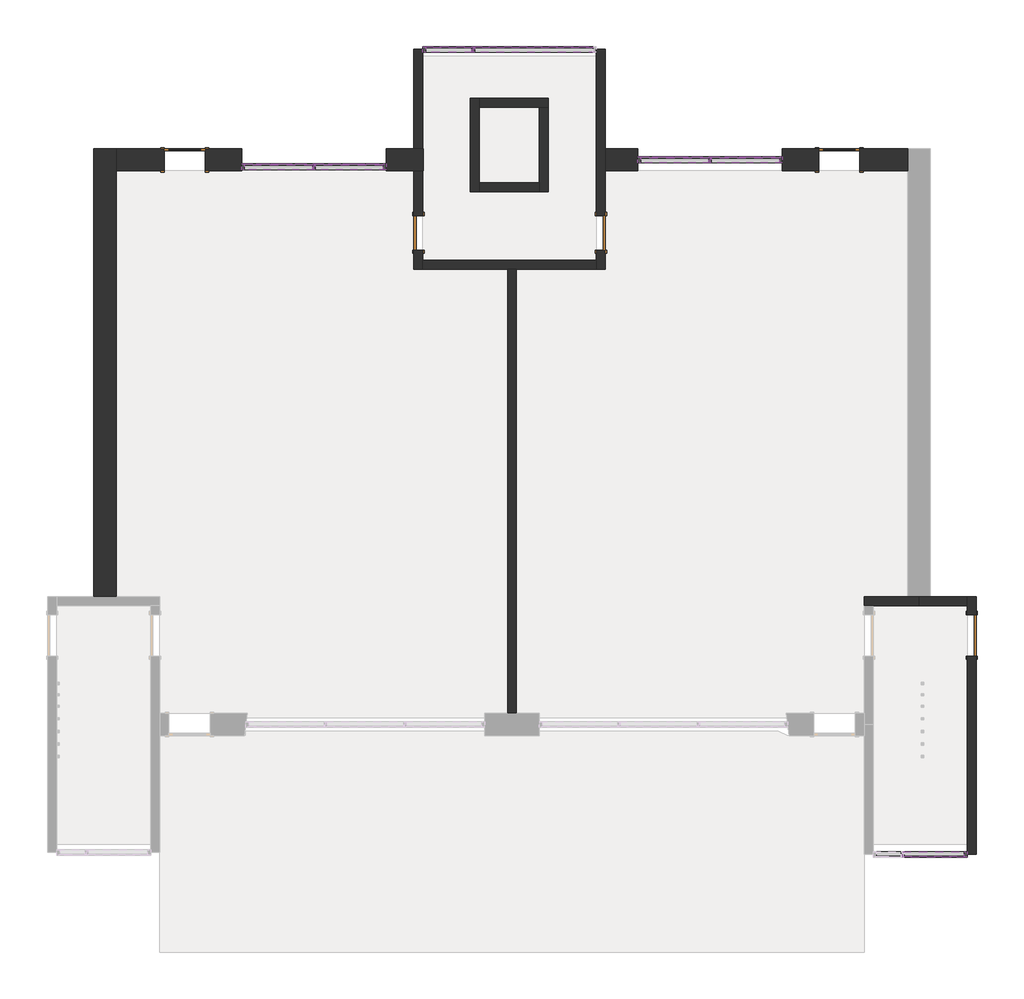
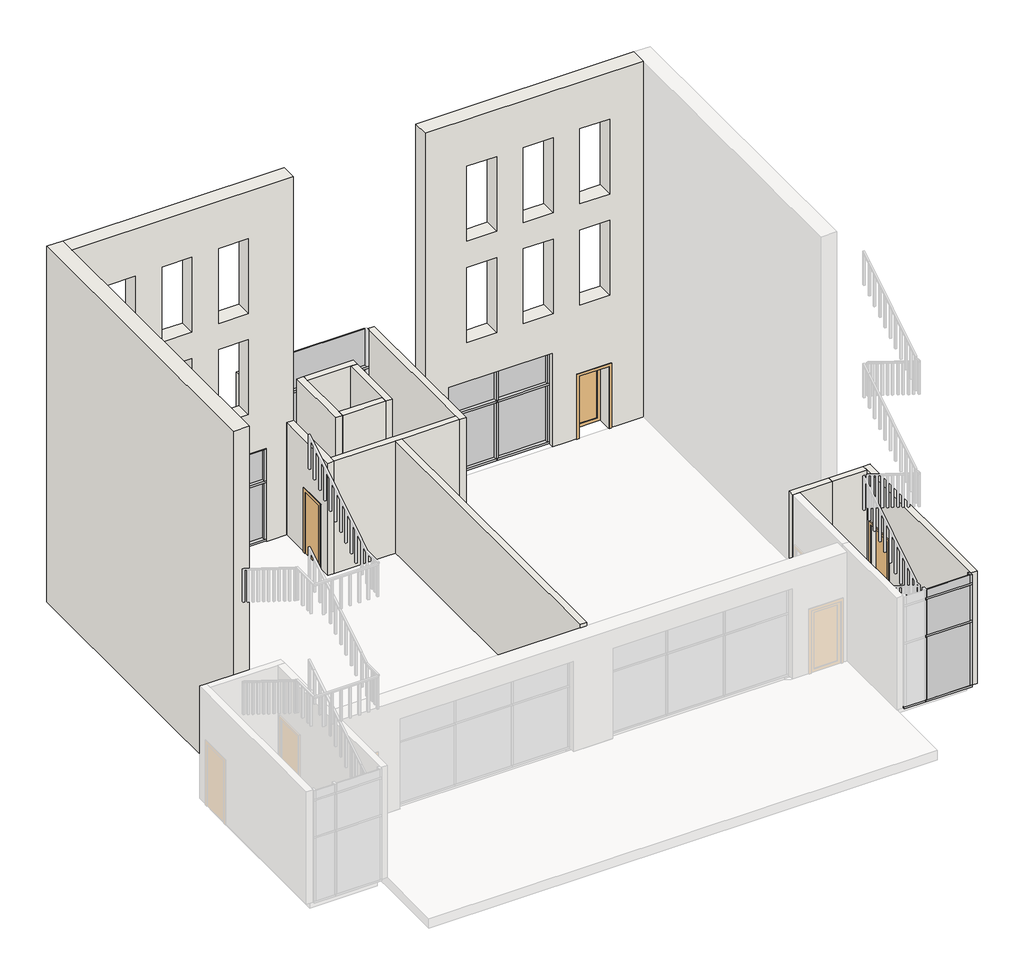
# One storey, part 2 of 4: 39 members, 16 walls, 15 plates, 5 doors.
"""IFC4 building model written with IfcOpenShell, lengths in millimetres."""

from ifc_helpers import new_model, si_unit, frame, origin, origin_with_axes, place, context, project, spatial, polyline, outline, extrude, faceted_brep, transform, mapped, element, save
from components import door_fadea3f2, door_53b1b562, door_09f6fe45, door_78e9ea75, door_dbfeadd9, glazed_panel_glazed_panel_8712f61d, glazed_panel_glazed_panel_3049fc2b, glazed_panel_glazed_panel_ed21d652, glazed_panel_glazed_panel_74581ffd, glazed_panel_glazed_panel_ad4a4512, glazed_panel_glazed_panel_af7c71ff, glazed_panel_glazed_panel_dfa14ea5, glazed_panel_glazed_panel_a164e39c, glazed_panel_glazed_panel_a7529006

model = new_model("IFC4")

# Units and contexts
model_context = context("Model", 3, world=origin())
ifc_project = project(units=[si_unit("LENGTHUNIT", "METRE", prefix="MILLI")], contexts=[model_context])

# Site, building, storey
site = spatial("IfcSite", under=ifc_project)
building = spatial("IfcBuilding", under=site)
storey = spatial("IfcBuildingStorey", under=building, Name="1st Flr. Cnst.", Elevation=0.0)

# Doors
placement = place(None, origin())
door_shape = door_fadea3f2(model_context)
element("IfcDoor", 1, ObjectType="Sgl Flush : 30\" x 80\"", at=placement, inside=storey, context=model_context, shape_type="MappedRepresentation", body=[
    mapped(door_shape, transform((9720.2821195, 8011.9797656, 0.0), x_axis=(0.0, -1.0, 0.0), y_axis=(1.0, 0.0, 0.0), z_axis=(0.0, 0.0, 1.0))),
])
door_2_shape = door_53b1b562(model_context)
element("IfcDoor", 2, ObjectType="Sgl Flush : 30\" x 80\"", at=placement, inside=storey, context=model_context, shape_type="MappedRepresentation", body=[
    mapped(door_2_shape, transform((5666.259118, 8011.9797656, 0.0), x_axis=(0.0, -1.0, 0.0), y_axis=(1.0, 0.0, 0.0), z_axis=(0.0, 0.0, 1.0))),
])
door_3_shape = door_09f6fe45(model_context)
element("IfcDoor", 3, ObjectType="Sgl Flush : 36\" x 80\"", at=placement, inside=storey, context=model_context, shape_type="MappedRepresentation", body=[
    mapped(door_3_shape, transform((17956.684118, -928.8202344, 0.0), x_axis=(0.0, 1.0, 0.0), y_axis=(-1.0, 0.0, 0.0), z_axis=(0.0, 0.0, 1.0))),
])
door_4_shape = door_78e9ea75(model_context)
element("IfcDoor", 4, ObjectType="Sgl-Glass 1 : 36\" x 80\"", at=placement, inside=storey, context=model_context, shape_type="MappedRepresentation", body=[
    mapped(door_4_shape, transform((15016.5322262, 9634.6494946, 0.0), x_axis=(0.999999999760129, 2.1903008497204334e-05, 0.0), y_axis=(-2.1903008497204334e-05, 0.999999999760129, 0.0), z_axis=(0.0, 0.0, 1.0))),
])
door_5_shape = door_dbfeadd9(model_context)
element("IfcDoor", 5, ObjectType="Sgl-Glass 1 : 36\" x 80\"", at=placement, inside=storey, context=model_context, shape_type="MappedRepresentation", body=[
    mapped(door_5_shape, transform((475.2360099, 9634.6494946, 0.0), x_axis=(-0.9999999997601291, 2.1903008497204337e-05, 0.0), y_axis=(-2.1903008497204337e-05, -0.9999999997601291, 0.0), z_axis=(0.0, 0.0, 1.0))),
])

# Members
element("IfcMember", 6, ObjectType="Rectangular Mullion : 2.5\" x 5\" rectangular", at=placement, inside=storey, context=model_context, shape_type="SweptSolid", body=[
    extrude(outline(polyline([(17855.084118, -5729.4662808), (17855.084118, -5856.4662808), (16427.921618, -5856.4662808), (16427.921618, -5729.4662808), (17855.084118, -5729.4662808)])), origin_with_axes(), (0.0, 0.0, 1.0), 63.5),
])
element("IfcMember", 7, ObjectType="Rectangular Mullion : 2.5\" x 5\" rectangular", at=placement, inside=storey, context=model_context, shape_type="SweptSolid", body=[
    extrude(outline(polyline([(17855.084118, -5729.4662808), (17855.084118, -5856.4662808), (17791.584118, -5856.4662808), (17791.584118, -5729.4662808), (17855.084118, -5729.4662808)])), frame((0.0, 0.0, 3384.55), z_axis=(0.0, 0.0, 1.0), x_axis=(1.0, 0.0, 0.0)), (0.0, 0.0, 1.0), 273.05),
])
element("IfcMember", 8, ObjectType="Rectangular Mullion : 2.5\" x 5\" rectangular", at=placement, inside=storey, context=model_context, shape_type="SweptSolid", body=[
    extrude(outline(polyline([(16427.921618, -5856.4662808), (16427.921618, -5729.4662808), (17855.084118, -5729.4662808), (17855.084118, -5856.4662808), (16427.921618, -5856.4662808)])), frame((0.0, 0.0, 3321.05), z_axis=(0.0, 0.0, 1.0), x_axis=(1.0, 0.0, 0.0)), (0.0, 0.0, 1.0), 63.5),
])
element("IfcMember", 9, ObjectType="Rectangular Mullion : 2.5\" x 5\" rectangular", at=placement, inside=storey, context=model_context, shape_type="SweptSolid", body=[
    extrude(outline(polyline([(16427.921618, -5856.4662808), (16427.921618, -5729.4662808), (17855.084118, -5729.4662808), (17855.084118, -5856.4662808), (16427.921618, -5856.4662808)])), frame((0.0, 0.0, 2101.85), z_axis=(0.0, 0.0, 1.0), x_axis=(1.0, 0.0, 0.0)), (0.0, 0.0, 1.0), 63.5),
])
element("IfcMember", 10, ObjectType="Rectangular Mullion : 2.5\" x 5\" rectangular", at=placement, inside=storey, context=model_context, shape_type="SweptSolid", body=[
    extrude(outline(polyline([(16427.921618, -5729.4662808), (16427.921618, -5856.4662808), (15772.284118, -5856.4662808), (15772.284118, -5729.4662808), (16427.921618, -5729.4662808)])), origin_with_axes(), (0.0, 0.0, 1.0), 63.5),
])
element("IfcMember", 11, ObjectType="Rectangular Mullion : 2.5\" x 5\" rectangular", at=placement, inside=storey, context=model_context, shape_type="SweptSolid", body=[
    extrude(outline(polyline([(17855.084118, -5729.4662808), (17855.084118, -5856.4662808), (17791.584118, -5856.4662808), (17791.584118, -5729.4662808), (17855.084118, -5729.4662808)])), frame((0.0, 0.0, 2165.35), z_axis=(0.0, 0.0, 1.0), x_axis=(1.0, 0.0, 0.0)), (0.0, 0.0, 1.0), 1155.7),
])
element("IfcMember", 12, ObjectType="Rectangular Mullion : 2.5\" x 5\" rectangular", at=placement, inside=storey, context=model_context, shape_type="SweptSolid", body=[
    extrude(outline(polyline([(17855.084118, -5729.4662808), (17855.084118, -5856.4662808), (17791.584118, -5856.4662808), (17791.584118, -5729.4662808), (17855.084118, -5729.4662808)])), frame((0.0, 0.0, 63.5), z_axis=(0.0, 0.0, 1.0), x_axis=(1.0, 0.0, 0.0)), (0.0, 0.0, 1.0), 2038.35),
])
element("IfcMember", 13, ObjectType="Rectangular Mullion : 2.5\" x 5\" rectangular", at=placement, inside=storey, context=model_context, shape_type="SweptSolid", body=[
    extrude(outline(polyline([(5767.859118, 12022.7617365), (5767.859118, 12149.7617365), (6885.459118, 12149.7617365), (6885.459118, 12022.7617365), (5767.859118, 12022.7617365)])), origin_with_axes(), (0.0, 0.0, 1.0), 63.5),
])
element("IfcMember", 14, ObjectType="Rectangular Mullion : 2.5\" x 5\" rectangular", at=placement, inside=storey, context=model_context, shape_type="SweptSolid", body=[
    extrude(outline(polyline([(6885.459118, 12022.7617365), (6885.459118, 12149.7617365), (9618.6821195, 12149.7617365), (9618.6821195, 12022.7617365), (6885.459118, 12022.7617365)])), origin_with_axes(), (0.0, 0.0, 1.0), 63.5),
])
element("IfcMember", 15, ObjectType="Rectangular Mullion : 2.5\" x 5\" rectangular", at=placement, inside=storey, context=model_context, shape_type="SweptSolid", body=[
    extrude(outline(polyline([(5767.859118, 12022.7617365), (5767.859118, 12149.7617365), (5831.359118, 12149.7617365), (5831.359118, 12022.7617365), (5767.859118, 12022.7617365)])), frame((0.0, 0.0, 2470.15), z_axis=(0.0, 0.0, 1.0), x_axis=(1.0, 0.0, 0.0)), (0.0, 0.0, 1.0), 1187.45),
])
element("IfcMember", 16, ObjectType="Rectangular Mullion : 2.5\" x 5\" rectangular", at=placement, inside=storey, context=model_context, shape_type="SweptSolid", body=[
    extrude(outline(polyline([(5767.859118, 12022.7617365), (5767.859118, 12149.7617365), (5831.359118, 12149.7617365), (5831.359118, 12022.7617365), (5767.859118, 12022.7617365)])), frame((0.0, 0.0, 63.5), z_axis=(0.0, 0.0, 1.0), x_axis=(1.0, 0.0, 0.0)), (0.0, 0.0, 1.0), 2343.15),
])
element("IfcMember", 17, ObjectType="Rectangular Mullion : 2.5\" x 5\" rectangular", at=placement, inside=storey, context=model_context, shape_type="SweptSolid", body=[
    extrude(outline(polyline([(6917.209118, 12022.7617365), (6853.709118, 12022.7617365), (6853.709118, 12149.7617365), (6917.209118, 12149.7617365), (6917.209118, 12022.7617365)])), frame((0.0, 0.0, 63.5), z_axis=(0.0, 0.0, 1.0), x_axis=(1.0, 0.0, 0.0)), (0.0, 0.0, 1.0), 2343.15),
])
element("IfcMember", 18, ObjectType="Rectangular Mullion : 2.5\" x 5\" rectangular", at=placement, inside=storey, context=model_context, shape_type="SweptSolid", body=[
    extrude(outline(polyline([(6885.459118, 12149.7617365), (6885.459118, 12022.7617365), (5767.859118, 12022.7617365), (5767.859118, 12149.7617365), (6885.459118, 12149.7617365)])), frame((0.0, 0.0, 2406.65), z_axis=(0.0, 0.0, 1.0), x_axis=(1.0, 0.0, 0.0)), (0.0, 0.0, 1.0), 63.5),
])
element("IfcMember", 19, ObjectType="Rectangular Mullion : 2.5\" x 5\" rectangular", at=placement, inside=storey, context=model_context, shape_type="SweptSolid", body=[
    extrude(outline(polyline([(9618.6821195, 12149.7617365), (9618.6821195, 12022.7617365), (6885.459118, 12022.7617365), (6885.459118, 12149.7617365), (9618.6821195, 12149.7617365)])), frame((0.0, 0.0, 2406.65), z_axis=(0.0, 0.0, 1.0), x_axis=(1.0, 0.0, 0.0)), (0.0, 0.0, 1.0), 63.5),
])
element("IfcMember", 20, ObjectType="Rectangular Mullion : 2.5\" x 5\" rectangular", at=placement, inside=storey, context=model_context, shape_type="SweptSolid", body=[
    extrude(outline(polyline([(6917.209118, 12022.7617365), (6853.709118, 12022.7617365), (6853.709118, 12149.7617365), (6917.209118, 12149.7617365), (6917.209118, 12022.7617365)])), frame((0.0, 0.0, 2470.15), z_axis=(0.0, 0.0, 1.0), x_axis=(1.0, 0.0, 0.0)), (0.0, 0.0, 1.0), 1187.45),
])
element("IfcMember", 21, ObjectType="Rectangular Mullion : 2.5\" x 5\" rectangular", at=placement, inside=storey, context=model_context, shape_type="SweptSolid", body=[
    extrude(outline(polyline([(13752.457464, 9698.0334908), (13752.457464, 9571.0334908), (12144.583291, 9571.0334908), (12144.583291, 9698.0334908), (13752.457464, 9698.0334908)])), origin_with_axes(), (0.0, 0.0, 1.0), 63.5),
])
element("IfcMember", 22, ObjectType="Rectangular Mullion : 2.5\" x 5\" rectangular", at=placement, inside=storey, context=model_context, shape_type="SweptSolid", body=[
    extrude(outline(polyline([(10536.709118, 9698.0334908), (10600.209118, 9698.0334908), (10600.209118, 9571.0334908), (10536.709118, 9571.0334908), (10536.709118, 9698.0334908)])), frame((0.0, 0.0, 63.5), z_axis=(0.0, 0.0, 1.0), x_axis=(1.0, 0.0, 0.0)), (0.0, 0.0, 1.0), 1835.15),
])
element("IfcMember", 23, ObjectType="Rectangular Mullion : 2.5\" x 5\" rectangular", at=placement, inside=storey, context=model_context, shape_type="SweptSolid", body=[
    extrude(outline(polyline([(10536.709118, 9571.0334908), (10536.709118, 9698.0334908), (12144.583291, 9698.0334908), (12144.583291, 9571.0334908), (10536.709118, 9571.0334908)])), frame((0.0, 0.0, 2984.5), z_axis=(0.0, 0.0, 1.0), x_axis=(1.0, 0.0, 0.0)), (0.0, 0.0, 1.0), 63.5),
])
element("IfcMember", 24, ObjectType="Rectangular Mullion : 2.5\" x 5\" rectangular", at=placement, inside=storey, context=model_context, shape_type="SweptSolid", body=[
    extrude(outline(polyline([(13752.457464, 9698.0334908), (13752.457464, 9571.0334908), (13688.957464, 9571.0334908), (13688.957464, 9698.0334908), (13752.457464, 9698.0334908)])), frame((0.0, 0.0, 1962.15), z_axis=(0.0, 0.0, 1.0), x_axis=(1.0, 0.0, 0.0)), (0.0, 0.0, 1.0), 1022.35),
])
element("IfcMember", 25, ObjectType="Rectangular Mullion : 2.5\" x 5\" rectangular", at=placement, inside=storey, context=model_context, shape_type="SweptSolid", body=[
    extrude(outline(polyline([(12144.583291, 9571.0334908), (12144.583291, 9698.0334908), (13752.457464, 9698.0334908), (13752.457464, 9571.0334908), (12144.583291, 9571.0334908)])), frame((0.0, 0.0, 1898.65), z_axis=(0.0, 0.0, 1.0), x_axis=(1.0, 0.0, 0.0)), (0.0, 0.0, 1.0), 63.5),
])
element("IfcMember", 26, ObjectType="Rectangular Mullion : 2.5\" x 5\" rectangular", at=placement, inside=storey, context=model_context, shape_type="SweptSolid", body=[
    extrude(outline(polyline([(10536.709118, 9571.0334908), (10536.709118, 9698.0334908), (12144.583291, 9698.0334908), (12144.583291, 9571.0334908), (10536.709118, 9571.0334908)])), frame((0.0, 0.0, 1898.65), z_axis=(0.0, 0.0, 1.0), x_axis=(1.0, 0.0, 0.0)), (0.0, 0.0, 1.0), 63.5),
])
element("IfcMember", 27, ObjectType="Rectangular Mullion : 2.5\" x 5\" rectangular", at=placement, inside=storey, context=model_context, shape_type="SweptSolid", body=[
    extrude(outline(polyline([(12112.833291, 9698.0334908), (12176.333291, 9698.0334908), (12176.333291, 9571.0334908), (12112.833291, 9571.0334908), (12112.833291, 9698.0334908)])), frame((0.0, 0.0, 63.5), z_axis=(0.0, 0.0, 1.0), x_axis=(1.0, 0.0, 0.0)), (0.0, 0.0, 1.0), 1835.15),
])
element("IfcMember", 28, ObjectType="Rectangular Mullion : 2.5\" x 5\" rectangular", at=placement, inside=storey, context=model_context, shape_type="SweptSolid", body=[
    extrude(outline(polyline([(12144.583291, 9698.0334908), (12144.583291, 9571.0334908), (10536.709118, 9571.0334908), (10536.709118, 9698.0334908), (12144.583291, 9698.0334908)])), origin_with_axes(), (0.0, 0.0, 1.0), 63.5),
])
element("IfcMember", 29, ObjectType="Rectangular Mullion : 2.5\" x 5\" rectangular", at=placement, inside=storey, context=model_context, shape_type="SweptSolid", body=[
    extrude(outline(polyline([(10536.709118, 9698.0334908), (10600.209118, 9698.0334908), (10600.209118, 9571.0334908), (10536.709118, 9571.0334908), (10536.709118, 9698.0334908)])), frame((0.0, 0.0, 1962.15), z_axis=(0.0, 0.0, 1.0), x_axis=(1.0, 0.0, 0.0)), (0.0, 0.0, 1.0), 1022.35),
])
element("IfcMember", 30, ObjectType="Rectangular Mullion : 2.5\" x 5\" rectangular", at=placement, inside=storey, context=model_context, shape_type="SweptSolid", body=[
    extrude(outline(polyline([(12144.583291, 9571.0334908), (12144.583291, 9698.0334908), (13752.457464, 9698.0334908), (13752.457464, 9571.0334908), (12144.583291, 9571.0334908)])), frame((0.0, 0.0, 2984.5), z_axis=(0.0, 0.0, 1.0), x_axis=(1.0, 0.0, 0.0)), (0.0, 0.0, 1.0), 63.5),
])
element("IfcMember", 31, ObjectType="Rectangular Mullion : 2.5\" x 5\" rectangular", at=placement, inside=storey, context=model_context, shape_type="SweptSolid", body=[
    extrude(outline(polyline([(13752.457464, 9698.0334908), (13752.457464, 9571.0334908), (13688.957464, 9571.0334908), (13688.957464, 9698.0334908), (13752.457464, 9698.0334908)])), frame((0.0, 0.0, 63.5), z_axis=(0.0, 0.0, 1.0), x_axis=(1.0, 0.0, 0.0)), (0.0, 0.0, 1.0), 1835.15),
])
element("IfcMember", 32, ObjectType="Rectangular Mullion : 2.5\" x 5\" rectangular", at=placement, inside=storey, context=model_context, shape_type="SweptSolid", body=[
    extrude(outline(polyline([(12112.833291, 9698.0334908), (12176.333291, 9698.0334908), (12176.333291, 9571.0334908), (12112.833291, 9571.0334908), (12112.833291, 9698.0334908)])), frame((0.0, 0.0, 1962.15), z_axis=(0.0, 0.0, 1.0), x_axis=(1.0, 0.0, 0.0)), (0.0, 0.0, 1.0), 1022.35),
])
element("IfcMember", 33, ObjectType="Rectangular Mullion : 2.5\" x 5\" rectangular", at=placement, inside=storey, context=model_context, shape_type="SweptSolid", body=[
    extrude(outline(polyline([(4955.059118, 9543.7951802), (4955.059118, 9416.7951802), (3347.184945, 9416.7951802), (3347.184945, 9543.7951802), (4955.059118, 9543.7951802)])), origin_with_axes(), (0.0, 0.0, 1.0), 63.5),
])
element("IfcMember", 34, ObjectType="Rectangular Mullion : 2.5\" x 5\" rectangular", at=placement, inside=storey, context=model_context, shape_type="SweptSolid", body=[
    extrude(outline(polyline([(1739.310772, 9543.7951802), (1802.810772, 9543.7951802), (1802.810772, 9416.7951802), (1739.310772, 9416.7951802), (1739.310772, 9543.7951802)])), frame((0.0, 0.0, 63.5), z_axis=(0.0, 0.0, 1.0), x_axis=(1.0, 0.0, 0.0)), (0.0, 0.0, 1.0), 1835.15),
])
element("IfcMember", 35, ObjectType="Rectangular Mullion : 2.5\" x 5\" rectangular", at=placement, inside=storey, context=model_context, shape_type="SweptSolid", body=[
    extrude(outline(polyline([(1739.310772, 9416.7951802), (1739.310772, 9543.7951802), (3347.184945, 9543.7951802), (3347.184945, 9416.7951802), (1739.310772, 9416.7951802)])), frame((0.0, 0.0, 2984.5), z_axis=(0.0, 0.0, 1.0), x_axis=(1.0, 0.0, 0.0)), (0.0, 0.0, 1.0), 63.5),
])
element("IfcMember", 36, ObjectType="Rectangular Mullion : 2.5\" x 5\" rectangular", at=placement, inside=storey, context=model_context, shape_type="SweptSolid", body=[
    extrude(outline(polyline([(4955.059118, 9543.7951802), (4955.059118, 9416.7951802), (4891.559118, 9416.7951802), (4891.559118, 9543.7951802), (4955.059118, 9543.7951802)])), frame((0.0, 0.0, 1962.15), z_axis=(0.0, 0.0, 1.0), x_axis=(1.0, 0.0, 0.0)), (0.0, 0.0, 1.0), 1022.35),
])
element("IfcMember", 37, ObjectType="Rectangular Mullion : 2.5\" x 5\" rectangular", at=placement, inside=storey, context=model_context, shape_type="SweptSolid", body=[
    extrude(outline(polyline([(3347.184945, 9416.7951802), (3347.184945, 9543.7951802), (4955.059118, 9543.7951802), (4955.059118, 9416.7951802), (3347.184945, 9416.7951802)])), frame((0.0, 0.0, 1898.65), z_axis=(0.0, 0.0, 1.0), x_axis=(1.0, 0.0, 0.0)), (0.0, 0.0, 1.0), 63.5),
])
element("IfcMember", 38, ObjectType="Rectangular Mullion : 2.5\" x 5\" rectangular", at=placement, inside=storey, context=model_context, shape_type="SweptSolid", body=[
    extrude(outline(polyline([(1739.310772, 9416.7951802), (1739.310772, 9543.7951802), (3347.184945, 9543.7951802), (3347.184945, 9416.7951802), (1739.310772, 9416.7951802)])), frame((0.0, 0.0, 1898.65), z_axis=(0.0, 0.0, 1.0), x_axis=(1.0, 0.0, 0.0)), (0.0, 0.0, 1.0), 63.5),
])
element("IfcMember", 39, ObjectType="Rectangular Mullion : 2.5\" x 5\" rectangular", at=placement, inside=storey, context=model_context, shape_type="SweptSolid", body=[
    extrude(outline(polyline([(3315.434945, 9543.7951802), (3378.934945, 9543.7951802), (3378.934945, 9416.7951802), (3315.434945, 9416.7951802), (3315.434945, 9543.7951802)])), frame((0.0, 0.0, 63.5), z_axis=(0.0, 0.0, 1.0), x_axis=(1.0, 0.0, 0.0)), (0.0, 0.0, 1.0), 1835.15),
])
element("IfcMember", 40, ObjectType="Rectangular Mullion : 2.5\" x 5\" rectangular", at=placement, inside=storey, context=model_context, shape_type="SweptSolid", body=[
    extrude(outline(polyline([(3347.184945, 9543.7951802), (3347.184945, 9416.7951802), (1739.310772, 9416.7951802), (1739.310772, 9543.7951802), (3347.184945, 9543.7951802)])), origin_with_axes(), (0.0, 0.0, 1.0), 63.5),
])
element("IfcMember", 41, ObjectType="Rectangular Mullion : 2.5\" x 5\" rectangular", at=placement, inside=storey, context=model_context, shape_type="SweptSolid", body=[
    extrude(outline(polyline([(1739.310772, 9543.7951802), (1802.810772, 9543.7951802), (1802.810772, 9416.7951802), (1739.310772, 9416.7951802), (1739.310772, 9543.7951802)])), frame((0.0, 0.0, 1962.15), z_axis=(0.0, 0.0, 1.0), x_axis=(1.0, 0.0, 0.0)), (0.0, 0.0, 1.0), 1022.35),
])
element("IfcMember", 42, ObjectType="Rectangular Mullion : 2.5\" x 5\" rectangular", at=placement, inside=storey, context=model_context, shape_type="SweptSolid", body=[
    extrude(outline(polyline([(3347.184945, 9416.7951802), (3347.184945, 9543.7951802), (4955.059118, 9543.7951802), (4955.059118, 9416.7951802), (3347.184945, 9416.7951802)])), frame((0.0, 0.0, 2984.5), z_axis=(0.0, 0.0, 1.0), x_axis=(1.0, 0.0, 0.0)), (0.0, 0.0, 1.0), 63.5),
])
element("IfcMember", 43, ObjectType="Rectangular Mullion : 2.5\" x 5\" rectangular", at=placement, inside=storey, context=model_context, shape_type="SweptSolid", body=[
    extrude(outline(polyline([(4955.059118, 9543.7951802), (4955.059118, 9416.7951802), (4891.559118, 9416.7951802), (4891.559118, 9543.7951802), (4955.059118, 9543.7951802)])), frame((0.0, 0.0, 63.5), z_axis=(0.0, 0.0, 1.0), x_axis=(1.0, 0.0, 0.0)), (0.0, 0.0, 1.0), 1835.15),
])
element("IfcMember", 44, ObjectType="Rectangular Mullion : 2.5\" x 5\" rectangular", at=placement, inside=storey, context=model_context, shape_type="SweptSolid", body=[
    extrude(outline(polyline([(3315.434945, 9543.7951802), (3378.934945, 9543.7951802), (3378.934945, 9416.7951802), (3315.434945, 9416.7951802), (3315.434945, 9543.7951802)])), frame((0.0, 0.0, 1962.15), z_axis=(0.0, 0.0, 1.0), x_axis=(1.0, 0.0, 0.0)), (0.0, 0.0, 1.0), 1022.35),
])

# Plates
glazed_panel_glazed_panel_shape = glazed_panel_glazed_panel_8712f61d(model_context)
element("IfcPlate", 45, ObjectType="Glazed Panel : Glazed Panel", at=placement, inside=storey, context=model_context, shape_type="MappedRepresentation", body=[
    mapped(glazed_panel_glazed_panel_shape, transform((6342.534118, 12086.2617365, 63.5), x_axis=(1.0, 0.0, 0.0), y_axis=(0.0, 1.0, 0.0), z_axis=(0.0, 0.0, 1.0))),
])
glazed_panel_glazed_panel_2_shape = glazed_panel_glazed_panel_3049fc2b(model_context)
element("IfcPlate", 46, ObjectType="Glazed Panel : Glazed Panel", at=placement, inside=storey, context=model_context, shape_type="MappedRepresentation", body=[
    mapped(glazed_panel_glazed_panel_2_shape, transform((12932.6453775, 9634.5334908, 63.5), x_axis=(-1.0, 0.0, 0.0), y_axis=(0.0, -1.0, 0.0), z_axis=(0.0, 0.0, 1.0))),
])
element("IfcPlate", 47, ObjectType="Glazed Panel : Glazed Panel", at=placement, inside=storey, context=model_context, shape_type="MappedRepresentation", body=[
    mapped(glazed_panel_glazed_panel_2_shape, transform((11356.5212045, 9634.5334908, 63.5), x_axis=(-1.0, 0.0, 0.0), y_axis=(0.0, -1.0, 0.0), z_axis=(0.0, 0.0, 1.0))),
])
element("IfcPlate", 48, ObjectType="Glazed Panel : Glazed Panel", at=placement, inside=storey, context=model_context, shape_type="MappedRepresentation", body=[
    mapped(glazed_panel_glazed_panel_2_shape, transform((4135.2470315, 9480.2951802, 63.5), x_axis=(-1.0, 0.0, 0.0), y_axis=(0.0, -1.0, 0.0), z_axis=(0.0, 0.0, 1.0))),
])
element("IfcPlate", 49, ObjectType="Glazed Panel : Glazed Panel", at=placement, inside=storey, context=model_context, shape_type="MappedRepresentation", body=[
    mapped(glazed_panel_glazed_panel_2_shape, transform((2559.1228585, 9480.2951802, 63.5), x_axis=(-1.0, 0.0, 0.0), y_axis=(0.0, -1.0, 0.0), z_axis=(0.0, 0.0, 1.0))),
])
glazed_panel_glazed_panel_3_shape = glazed_panel_glazed_panel_ed21d652(model_context)
element("IfcPlate", 50, ObjectType="Glazed Panel : Glazed Panel", at=placement, inside=storey, context=model_context, shape_type="MappedRepresentation", body=[
    mapped(glazed_panel_glazed_panel_3_shape, transform((17125.627868, -5792.9662808, 63.5), x_axis=(-1.0, 0.0, 0.0), y_axis=(0.0, -1.0, 0.0), z_axis=(0.0, 0.0, 1.0))),
])
glazed_panel_glazed_panel_4_shape = glazed_panel_glazed_panel_74581ffd(model_context)
element("IfcPlate", 51, ObjectType="Glazed Panel : Glazed Panel", at=placement, inside=storey, context=model_context, shape_type="MappedRepresentation", body=[
    mapped(glazed_panel_glazed_panel_4_shape, transform((17125.627868, -5792.9662808, 3384.55), x_axis=(-1.0, 0.0, 0.0), y_axis=(0.0, -1.0, 0.0), z_axis=(0.0, 0.0, 1.0))),
])
glazed_panel_glazed_panel_5_shape = glazed_panel_glazed_panel_ad4a4512(model_context)
element("IfcPlate", 52, ObjectType="Glazed Panel : Glazed Panel", at=placement, inside=storey, context=model_context, shape_type="MappedRepresentation", body=[
    mapped(glazed_panel_glazed_panel_5_shape, transform((17125.627868, -5792.9662808, 2165.35), x_axis=(-1.0, 0.0, 0.0), y_axis=(0.0, -1.0, 0.0), z_axis=(0.0, 0.0, 1.0))),
])
glazed_panel_glazed_panel_6_shape = glazed_panel_glazed_panel_af7c71ff(model_context)
element("IfcPlate", 53, ObjectType="Glazed Panel : Glazed Panel", at=placement, inside=storey, context=model_context, shape_type="MappedRepresentation", body=[
    mapped(glazed_panel_glazed_panel_6_shape, transform((8236.1956187, 12086.2617365, 63.5), x_axis=(1.0, 0.0, 0.0), y_axis=(0.0, 1.0, 0.0), z_axis=(0.0, 0.0, 1.0))),
])
glazed_panel_glazed_panel_7_shape = glazed_panel_glazed_panel_dfa14ea5(model_context)
element("IfcPlate", 54, ObjectType="Glazed Panel : Glazed Panel", at=placement, inside=storey, context=model_context, shape_type="MappedRepresentation", body=[
    mapped(glazed_panel_glazed_panel_7_shape, transform((6342.534118, 12086.2617365, 2470.15), x_axis=(1.0, 0.0, 0.0), y_axis=(0.0, 1.0, 0.0), z_axis=(0.0, 0.0, 1.0))),
])
glazed_panel_glazed_panel_8_shape = glazed_panel_glazed_panel_a164e39c(model_context)
element("IfcPlate", 55, ObjectType="Glazed Panel : Glazed Panel", at=placement, inside=storey, context=model_context, shape_type="MappedRepresentation", body=[
    mapped(glazed_panel_glazed_panel_8_shape, transform((8236.1956187, 12086.2617365, 2470.15), x_axis=(1.0, 0.0, 0.0), y_axis=(0.0, 1.0, 0.0), z_axis=(0.0, 0.0, 1.0))),
])
glazed_panel_glazed_panel_9_shape = glazed_panel_glazed_panel_a7529006(model_context)
element("IfcPlate", 56, ObjectType="Glazed Panel : Glazed Panel", at=placement, inside=storey, context=model_context, shape_type="MappedRepresentation", body=[
    mapped(glazed_panel_glazed_panel_9_shape, transform((12932.6453775, 9634.5334908, 1962.15), x_axis=(-1.0, 0.0, 0.0), y_axis=(0.0, -1.0, 0.0), z_axis=(0.0, 0.0, 1.0))),
])
element("IfcPlate", 57, ObjectType="Glazed Panel : Glazed Panel", at=placement, inside=storey, context=model_context, shape_type="MappedRepresentation", body=[
    mapped(glazed_panel_glazed_panel_9_shape, transform((11356.5212045, 9634.5334908, 1962.15), x_axis=(-1.0, 0.0, 0.0), y_axis=(0.0, -1.0, 0.0), z_axis=(0.0, 0.0, 1.0))),
])
element("IfcPlate", 58, ObjectType="Glazed Panel : Glazed Panel", at=placement, inside=storey, context=model_context, shape_type="MappedRepresentation", body=[
    mapped(glazed_panel_glazed_panel_9_shape, transform((4135.2470315, 9480.2951802, 1962.15), x_axis=(-1.0, 0.0, 0.0), y_axis=(0.0, -1.0, 0.0), z_axis=(0.0, 0.0, 1.0))),
])
element("IfcPlate", 59, ObjectType="Glazed Panel : Glazed Panel", at=placement, inside=storey, context=model_context, shape_type="MappedRepresentation", body=[
    mapped(glazed_panel_glazed_panel_9_shape, transform((2559.1228585, 9480.2951802, 1962.15), x_axis=(-1.0, 0.0, 0.0), y_axis=(0.0, -1.0, 0.0), z_axis=(0.0, 0.0, 1.0))),
])

# Walls
element("IfcWall", 60, ObjectType="Cohouse - Exterior - Conc", at=placement, inside=storey, context=model_context, shape_type="Brep", body=[
    faceted_brep([(5767.859118, 7199.1797656, 0.0), (5767.859118, 7402.3797656, 0.0), (5767.859118, 7630.9797656, 0.0), (5767.859118, 7630.9797656, 2032.0), (5767.859118, 8392.9797656, 2032.0), (5767.859118, 8392.9797656, 0.0), (5767.859118, 9391.5172656, 0.0), (5767.859118, 9391.5172656, 3657.6), (5767.859118, 7402.3797656, 3657.6), (5767.859118, 7199.1797656, 3657.6), (5564.659118, 7630.9797656, 2032.0), (5564.659118, 7630.9797656, 0.0), (5564.659118, 7199.1797656, 0.0), (5564.659118, 7199.1797656, 3657.6), (5564.659118, 9391.5172656, 3657.6), (5564.659118, 9391.5172656, 0.0), (5564.659118, 8392.9797656, 0.0), (5564.659118, 8392.9797656, 2032.0)], [[[0, 1, 2, 3, 4, 5, 6, 7, 8, 9]], [[10, 11, 12, 13, 14, 15, 16, 17]], [[12, 11, 2, 1, 0]], [[16, 15, 6, 5]], [[9, 8, 7, 14, 13]], [[7, 6, 15, 14]], [[0, 9, 13, 12]], [[3, 2, 11, 10]], [[4, 3, 10, 17]], [[5, 4, 17, 16]]]),
])
element("IfcWall", 61, ObjectType="Cohouse - Exterior - Conc", at=placement, inside=storey, context=model_context, shape_type="Brep", body=[
    faceted_brep([(9821.8821195, 7199.1797656, 0.0), (9821.8821195, 7630.9797656, 0.0), (9821.8821195, 7630.9797656, 2032.0), (9821.8821195, 8392.9797656, 2032.0), (9821.8821195, 8392.9797656, 0.0), (9821.8821195, 9386.885716, 0.0), (9821.8821195, 9882.1857162, 0.0), (9821.8821195, 12086.2617365, 0.0), (9821.8821195, 12086.2617365, 3657.6), (9821.8821195, 7199.1797656, 3657.6), (9618.6821195, 7630.9797656, 2032.0), (9618.6821195, 7630.9797656, 0.0), (9618.6821195, 7402.3797656, 0.0), (9618.6821195, 7199.1797656, 0.0), (9618.6821195, 7199.1797656, 3657.6), (9618.6821195, 7402.3797656, 3657.6), (9618.6821195, 12086.2617365, 3657.6), (9618.6821195, 12086.2617365, 0.0), (9618.6821195, 8392.9797656, 0.0), (9618.6821195, 8392.9797656, 2032.0)], [[[0, 1, 2, 3, 4, 5, 6, 7, 8, 9]], [[10, 11, 12, 13, 14, 15, 16, 17, 18, 19]], [[13, 12, 11, 1, 0]], [[18, 17, 7, 6, 5, 4]], [[8, 7, 17, 16]], [[9, 8, 16, 15, 14]], [[0, 9, 14, 13]], [[2, 1, 11, 10]], [[3, 2, 10, 19]], [[4, 3, 19, 18]]]),
])
element("IfcWall", 62, ObjectType="Cohouse - Exterior - Conc", at=placement, inside=storey, context=model_context, shape_type="Brep", body=[
    faceted_brep([(7016.8099837, 8926.3797656, 0.0), (7016.8099837, 9129.5797656, 0.0), (7016.8099837, 10800.8840931, 0.0), (7016.8099837, 11004.0840931, 0.0), (7016.8099837, 11004.0840931, 3657.6), (7016.8099837, 10800.8840931, 3657.6), (7016.8099837, 9129.5797656, 3657.6), (7016.8099837, 8926.3797656, 3657.6), (6813.6099837, 8926.3797656, 0.0), (6813.6099837, 8926.3797656, 3657.6), (6813.6099837, 11004.0840931, 3657.6), (6813.6099837, 11004.0840931, 0.0)], [[[0, 1, 2, 3, 4, 5, 6, 7]], [[8, 9, 10, 11]], [[3, 2, 1, 0, 8, 11]], [[7, 6, 5, 4, 10, 9]], [[4, 3, 11, 10]], [[0, 7, 9, 8]]]),
])
element("IfcWall", 63, ObjectType="Cohouse - Exterior - Conc", at=placement, inside=storey, context=model_context, shape_type="Brep", body=[
    faceted_brep([(7016.8099837, 10800.8840931, 0.0), (8348.6821195, 10800.8840931, 0.0), (8551.8821195, 10800.8840931, 0.0), (8551.8821195, 10800.8840931, 3657.6), (8348.6821195, 10800.8840931, 3657.6), (7016.8099837, 10800.8840931, 3657.6), (7016.8099837, 11004.0840931, 0.0), (7016.8099837, 11004.0840931, 3657.6), (8551.8821195, 11004.0840931, 3657.6), (8551.8821195, 11004.0840931, 0.0)], [[[0, 1, 2, 3, 4, 5]], [[6, 7, 8, 9]], [[2, 1, 0, 6, 9]], [[5, 4, 3, 8, 7]], [[3, 2, 9, 8]], [[0, 5, 7, 6]]]),
])
element("IfcWall", 64, ObjectType="Cohouse - Exterior - Conc", at=placement, inside=storey, context=model_context, shape_type="Brep", body=[
    faceted_brep([(8348.6821195, 10800.8840931, 0.0), (8348.6821195, 9129.5797656, 0.0), (8348.6821195, 8926.3797656, 0.0), (8348.6821195, 8926.3797656, 3657.6), (8348.6821195, 9129.5797656, 3657.6), (8348.6821195, 10800.8840931, 3657.6), (8551.8821195, 10800.8840931, 0.0), (8551.8821195, 10800.8840931, 3657.6), (8551.8821195, 8926.3797656, 3657.6), (8551.8821195, 8926.3797656, 0.0)], [[[0, 1, 2, 3, 4, 5]], [[6, 7, 8, 9]], [[2, 1, 0, 6, 9]], [[5, 4, 3, 8, 7]], [[3, 2, 9, 8]], [[0, 5, 7, 6]]]),
])
element("IfcWall", 65, ObjectType="Cohouse - Exterior - Conc", at=placement, inside=storey, context=model_context, shape_type="SweptSolid", body=[
    extrude(outline(polyline([(8348.6821195, 8926.3797656), (7016.8099837, 8926.3797656), (7016.8099837, 9129.5797656), (8348.6821195, 9129.5797656), (8348.6821195, 8926.3797656)])), origin_with_axes(), (0.0, 0.0, 1.0), 3657.6),
])
element("IfcWall", 66, ObjectType="Cohouse - Exterior - Conc", at=placement, inside=storey, context=model_context, shape_type="Brep", body=[
    faceted_brep([(5767.859118, 7199.1797656, 0.0), (7649.046618, 7199.1797656, 0.0), (7842.721618, 7199.1797656, 0.0), (9618.6821195, 7199.1797656, 0.0), (9618.6821195, 7199.1797656, 3657.6), (7842.721618, 7199.1797656, 3657.6), (7649.046618, 7199.1797656, 3657.6), (5767.859118, 7199.1797656, 3657.6), (5767.859118, 7402.3797656, 0.0), (5767.859118, 7402.3797656, 3657.6), (9618.6821195, 7402.3797656, 3657.6), (9618.6821195, 7402.3797656, 0.0)], [[[0, 1, 2, 3, 4, 5, 6, 7]], [[8, 9, 10, 11]], [[3, 2, 1, 0, 8, 11]], [[7, 6, 5, 4, 10, 9]], [[4, 3, 11, 10]], [[0, 7, 9, 8]]]),
])
element("IfcWall", 67, ObjectType="Cohouse - Exterior - Conc", at=placement, inside=storey, context=model_context, shape_type="Brep", body=[
    faceted_brep([(5767.859118, 9391.5172656, 0.0), (5767.859118, 12086.2617365, 0.0), (5767.859118, 12086.2617365, 3657.6), (5767.859118, 9391.5172656, 3657.6), (5564.659118, 9391.5172656, 0.0), (5564.659118, 9391.5172656, 3657.6), (5564.659118, 9886.8172656, 3657.6), (5564.659118, 12086.2617365, 3657.6), (5564.659118, 12086.2617365, 0.0), (5564.659118, 9886.8172656, 0.0)], [[[0, 1, 2, 3]], [[4, 5, 6, 7, 8, 9]], [[1, 0, 4, 9, 8]], [[2, 1, 8, 7]], [[3, 2, 7, 6, 5]], [[0, 3, 5, 4]]]),
])
element("IfcWall", 68, ObjectType="Cohouse - Exterior - Conc", at=placement, inside=storey, context=model_context, shape_type="Brep", body=[
    faceted_brep([(15569.084118, -268.4202344, 0.0), (15772.284118, -268.4202344, 0.0), (16785.109118, -268.4202344, 0.0), (16785.109118, -268.4202344, 3657.6), (15772.284118, -268.4202344, 3657.6), (15569.084118, -268.4202344, 3657.6), (15569.084118, -65.2202344, 0.0), (15569.084118, -65.2202344, 3657.6), (16785.109118, -65.2202344, 3657.6), (16785.109118, -65.2202344, 0.0), (16785.109118, -69.6992683, 3657.6)], [[[0, 1, 2, 3, 4, 5]], [[6, 7, 8, 9]], [[2, 1, 0, 6, 9]], [[3, 2, 9, 8, 10]], [[5, 4, 3, 10, 8, 7]], [[0, 5, 7, 6]]]),
])
element("IfcWall", 69, ObjectType="Cohouse - Exterior - Conc", at=placement, inside=storey, context=model_context, shape_type="Brep", body=[
    faceted_brep([(17855.084118, -65.2202344, 0.0), (17855.084118, -268.4202344, 0.0), (17855.084118, -471.6202344, 0.0), (17855.084118, -471.6202344, 2032.0), (17855.084118, -1386.0202344, 2032.0), (17855.084118, -1386.0202344, 0.0), (17855.084118, -5792.9662808, 0.0), (17855.084118, -5792.9662808, 3657.6), (17855.084118, -268.4202344, 3657.6), (17855.084118, -69.6992683, 3657.6), (17855.084118, -65.2202344, 3657.6), (18058.284118, -471.6202344, 2032.0), (18058.284118, -471.6202344, 0.0), (18058.284118, -65.2202344, 0.0), (18058.284118, -65.2202344, 3657.6), (18058.284118, -69.6992683, 3657.6), (18058.284118, -5792.9662808, 3657.6), (18058.284118, -5792.9662808, 0.0), (18058.284118, -1386.0202344, 0.0), (18058.284118, -1386.0202344, 2032.0)], [[[0, 1, 2, 3, 4, 5, 6, 7, 8, 9, 10]], [[11, 12, 13, 14, 15, 16, 17, 18, 19]], [[13, 12, 2, 1, 0]], [[18, 17, 6, 5]], [[7, 6, 17, 16]], [[10, 9, 8, 7, 16, 15, 14]], [[0, 10, 14, 13]], [[3, 2, 12, 11]], [[4, 3, 11, 19]], [[5, 4, 19, 18]]]),
])
element("IfcWall", 70, ObjectType="Cohouse - Exterior - Conc", at=placement, inside=storey, context=model_context, shape_type="Brep", body=[
    faceted_brep([(16785.109118, -268.4202344, 0.0), (17855.084118, -268.4202344, 0.0), (17855.084118, -268.4202344, 3657.6), (16785.109118, -268.4202344, 3657.6), (16785.109118, -65.2202344, 0.0), (16785.109118, -65.2202344, 3657.6), (17855.084118, -65.2202344, 3657.6), (17855.084118, -65.2202344, 0.0), (17855.084118, -69.6992683, 3657.6), (16785.109118, -69.6992683, 3657.6)], [[[0, 1, 2, 3]], [[4, 5, 6, 7]], [[1, 0, 4, 7]], [[3, 2, 8, 6, 5, 9]], [[0, 3, 9, 5, 4]], [[2, 1, 7, 6, 8]]]),
])
element("IfcWall", 71, ObjectType="Co-house - Exterior - Brick on CMU", at=placement, inside=storey, context=model_context, shape_type="Brep", body=[
    faceted_brep([(-1045.690882, -62.9666814, 0.0), (-1045.690882, 9387.0328074, 0.0), (-1045.690882, 9882.3328075, 0.0), (-1045.690882, 9882.3328075, 11582.4), (-1045.690882, 9387.0328074, 11582.4), (-1045.690882, -62.9666814, 11582.4), (-1540.990882, -62.9666814, 0.0), (-1540.990882, -62.9666814, 11582.4), (-1540.990882, 9882.3436561, 11582.4), (-1540.990882, 9882.3436561, 0.0)], [[[0, 1, 2, 3, 4, 5]], [[6, 7, 8, 9]], [[2, 1, 0, 6, 9]], [[5, 4, 3, 8, 7]], [[0, 5, 7, 6]], [[3, 2, 9, 8]]]),
])
element("IfcWall", 72, ObjectType="Co-house - Exterior - Brick on CMU", at=placement, inside=storey, context=model_context, shape_type="SweptSolid", body=[
    extrude(outline(polyline([(5564.659118, 9391.5172656), (5564.0808108, 9391.5172656), (5564.0808108, 9886.8172656), (5564.659118, 9886.8172656), (5564.659118, 9391.5172656)])), origin_with_axes(), (0.0, 0.0, 1.0), 3657.6),
])
element("IfcWall", 73, ObjectType="Co-house - Exterior - Brick on CMU", at=placement, inside=storey, context=model_context, shape_type="Brep", body=[
    faceted_brep([(16537.459118, 9882.3328075, 0.0), (15473.7268018, 9882.3095086, 0.0), (15473.7268018, 9882.3095086, 2032.0), (14559.326802, 9882.2894804, 2032.0), (14559.326802, 9882.2894804, 0.0), (13752.4534287, 9882.2718075, 0.0), (13752.4534287, 9882.2718075, 3048.0), (10536.7050842, 9882.2013729, 3048.0), (10536.7050842, 9882.2013729, 0.0), (9821.8821195, 9882.1857162, 0.0), (9821.8821195, 9882.1857162, 11582.4), (16537.459118, 9882.3328075, 11582.4), (14588.0038422, 9882.2901086, 10058.4), (14588.0038422, 9882.2901086, 7620.0), (15502.4038419, 9882.3101367, 7620.0), (15502.4038419, 9882.3101367, 10058.4), (11108.2038438, 9882.2138905, 10058.4), (11108.2038438, 9882.2138905, 7620.0), (12022.6038436, 9882.2339186, 7620.0), (12022.6038436, 9882.2339186, 10058.4), (13762.5038428, 9882.2720276, 10058.4), (12848.103843, 9882.2519995, 10058.4), (12848.103843, 9882.2519995, 7620.0), (13762.5038428, 9882.2720276, 7620.0), (12022.6038438, 9882.2339186, 6764.9325902), (11108.203844, 9882.2138905, 6764.9325902), (11108.203844, 9882.2138905, 4326.5325902), (12022.6038438, 9882.2339186, 4326.5325902), (15502.403842, 9882.3101367, 6764.9325902), (14588.0038422, 9882.2901086, 6764.9325902), (14588.0038422, 9882.2901086, 4326.5325902), (15502.403842, 9882.3101367, 4326.5325902), (12848.1038431, 9882.2519995, 6764.9325902), (12848.1038431, 9882.2519995, 4326.5325902), (13762.5038429, 9882.2720276, 4326.5325902), (13762.5038429, 9882.2720276, 6764.9325902), (15473.7376503, 9387.0095087, 2032.0), (15473.7376503, 9387.0095087, 0.0), (16537.459118, 9387.0328074, 0.0), (16537.459118, 9387.0328074, 11582.4), (9821.8821195, 9386.885716, 11582.4), (9821.8821195, 9386.885716, 0.0), (10536.7159328, 9386.901373, 0.0), (10536.7159328, 9386.901373, 3048.0), (13752.4642772, 9386.9718076, 3048.0), (13752.4642772, 9386.9718076, 0.0), (14559.3376506, 9386.9894806, 0.0), (14559.3376506, 9386.9894806, 2032.0), (14588.0146907, 9386.9901087, 10058.4), (15502.4146905, 9387.0101368, 10058.4), (15502.4146905, 9387.0101368, 7620.0), (14588.0146907, 9386.9901087, 7620.0), (11108.2146924, 9386.9138906, 10058.4), (12022.6146922, 9386.9339187, 10058.4), (12022.6146922, 9386.9339187, 7620.0), (11108.2146924, 9386.9138906, 7620.0), (13762.5146913, 9386.9720277, 10058.4), (13762.5146913, 9386.9720277, 7620.0), (12848.1146916, 9386.9519996, 7620.0), (12848.1146916, 9386.9519996, 10058.4), (12022.6146923, 9386.9339187, 6764.9325902), (12022.6146923, 9386.9339187, 4326.5325902), (11108.2146925, 9386.9138906, 4326.5325902), (11108.2146925, 9386.9138906, 6764.9325902), (15502.4146906, 9387.0101368, 6764.9325902), (15502.4146906, 9387.0101368, 4326.5325902), (14588.0146908, 9386.9901087, 4326.5325902), (14588.0146908, 9386.9901087, 6764.9325902), (12848.1146917, 9386.9519996, 6764.9325902), (13762.5146915, 9386.9720277, 6764.9325902), (13762.5146915, 9386.9720277, 4326.5325902), (12848.1146917, 9386.9519996, 4326.5325902)], [[[0, 1, 2, 3, 4, 5, 6, 7, 8, 9, 10, 11], [12, 13, 14, 15], [16, 17, 18, 19], [20, 21, 22, 23], [24, 25, 26, 27], [28, 29, 30, 31], [32, 33, 34, 35]], [[36, 37, 38, 39, 40, 41, 42, 43, 44, 45, 46, 47], [48, 49, 50, 51], [52, 53, 54, 55], [56, 57, 58, 59], [60, 61, 62, 63], [64, 65, 66, 67], [68, 69, 70, 71]], [[38, 37, 1, 0]], [[46, 45, 5, 4]], [[6, 5, 45, 44]], [[7, 6, 44, 43]], [[8, 7, 43, 42]], [[9, 8, 42, 41]], [[11, 10, 40, 39]], [[9, 41, 40, 10]], [[0, 11, 39, 38]], [[13, 12, 48, 51]], [[14, 13, 51, 50]], [[15, 14, 50, 49]], [[12, 15, 49, 48]], [[17, 16, 52, 55]], [[18, 17, 55, 54]], [[19, 18, 54, 53]], [[16, 19, 53, 52]], [[57, 56, 20, 23]], [[58, 57, 23, 22]], [[59, 58, 22, 21]], [[56, 59, 21, 20]], [[61, 60, 24, 27]], [[62, 61, 27, 26]], [[63, 62, 26, 25]], [[60, 63, 25, 24]], [[65, 64, 28, 31]], [[66, 65, 31, 30]], [[67, 66, 30, 29]], [[64, 67, 29, 28]], [[33, 32, 68, 71]], [[34, 33, 71, 70]], [[35, 34, 70, 69]], [[32, 35, 69, 68]], [[2, 1, 37, 36]], [[3, 2, 36, 47]], [[4, 3, 47, 46]]]),
])
element("IfcWall", 74, ObjectType="Co-house - Exterior - Brick on CMU", at=placement, inside=storey, context=model_context, shape_type="Brep", body=[
    faceted_brep([(-1045.690882, 9387.0328074, 0.0), (18.0305857, 9387.0095087, 0.0), (18.0305857, 9387.0095087, 2032.0), (932.4305855, 9386.9894806, 2032.0), (932.4305855, 9386.9894806, 0.0), (1739.3039589, 9386.9718076, 0.0), (1739.3039589, 9386.9718076, 3048.0), (4955.0523033, 9386.901373, 3048.0), (4955.0523033, 9386.901373, 0.0), (5771.4806923, 9386.8834908, 0.0), (5771.4806923, 9386.8834908, 11582.4), (-1045.690882, 9387.0328074, 11582.4), (903.7535453, 9386.9901087, 10058.4), (903.7535453, 9386.9901087, 7620.0), (-10.6464544, 9387.0101368, 7620.0), (-10.6464544, 9387.0101368, 10058.4), (4383.5535437, 9386.9138906, 10058.4), (4383.5535437, 9386.9138906, 7620.0), (3469.1535439, 9386.9339187, 7620.0), (3469.1535439, 9386.9339187, 10058.4), (1729.2535447, 9386.9720277, 10058.4), (2643.6535445, 9386.9519996, 10058.4), (2643.6535445, 9386.9519996, 7620.0), (1729.2535447, 9386.9720277, 7620.0), (3469.1535438, 9386.9339187, 6764.9325902), (4383.5535435, 9386.9138906, 6764.9325902), (4383.5535435, 9386.9138906, 4326.5325902), (3469.1535438, 9386.9339187, 4326.5325902), (-10.6464545, 9387.0101368, 6764.9325902), (903.7535453, 9386.9901087, 6764.9325902), (903.7535453, 9386.9901087, 4326.5325902), (-10.6464545, 9387.0101368, 4326.5325902), (2643.6535444, 9386.9519996, 6764.9325902), (2643.6535444, 9386.9519996, 4326.5325902), (1729.2535446, 9386.9720277, 4326.5325902), (1729.2535446, 9386.9720277, 6764.9325902), (18.0414343, 9882.3095086, 2032.0), (18.0414343, 9882.3095086, 0.0), (-1045.690882, 9882.3328075, 0.0), (-1045.690882, 9882.3328075, 11582.4), (5771.4915409, 9882.1834907, 11582.4), (5771.4915409, 9882.1834907, 0.0), (4955.0631519, 9882.2013729, 0.0), (4955.0631519, 9882.2013729, 3048.0), (1739.3148074, 9882.2718075, 3048.0), (1739.3148074, 9882.2718075, 0.0), (932.4414341, 9882.2894804, 0.0), (932.4414341, 9882.2894804, 2032.0), (903.7643939, 9882.2901086, 10058.4), (-10.6356059, 9882.3101367, 10058.4), (-10.6356059, 9882.3101367, 7620.0), (903.7643939, 9882.2901086, 7620.0), (4383.5643922, 9882.2138905, 10058.4), (3469.1643925, 9882.2339186, 10058.4), (3469.1643925, 9882.2339186, 7620.0), (4383.5643922, 9882.2138905, 7620.0), (1729.2643933, 9882.2720276, 10058.4), (1729.2643933, 9882.2720276, 7620.0), (2643.6643931, 9882.2519995, 7620.0), (2643.6643931, 9882.2519995, 10058.4), (3469.1643923, 9882.2339186, 6764.9325902), (3469.1643923, 9882.2339186, 4326.5325902), (4383.5643921, 9882.2138905, 4326.5325902), (4383.5643921, 9882.2138905, 6764.9325902), (-10.6356059, 9882.3101367, 6764.9325902), (-10.6356059, 9882.3101367, 4326.5325902), (903.7643938, 9882.2901086, 4326.5325902), (903.7643938, 9882.2901086, 6764.9325902), (2643.6643929, 9882.2519995, 6764.9325902), (1729.2643932, 9882.2720276, 6764.9325902), (1729.2643932, 9882.2720276, 4326.5325902), (2643.6643929, 9882.2519995, 4326.5325902)], [[[0, 1, 2, 3, 4, 5, 6, 7, 8, 9, 10, 11], [12, 13, 14, 15], [16, 17, 18, 19], [20, 21, 22, 23], [24, 25, 26, 27], [28, 29, 30, 31], [32, 33, 34, 35]], [[36, 37, 38, 39, 40, 41, 42, 43, 44, 45, 46, 47], [48, 49, 50, 51], [52, 53, 54, 55], [56, 57, 58, 59], [60, 61, 62, 63], [64, 65, 66, 67], [68, 69, 70, 71]], [[38, 37, 1, 0]], [[46, 45, 5, 4]], [[6, 5, 45, 44]], [[7, 6, 44, 43]], [[8, 7, 43, 42]], [[9, 8, 42, 41]], [[10, 9, 41, 40]], [[11, 10, 40, 39]], [[0, 11, 39, 38]], [[13, 12, 48, 51]], [[14, 13, 51, 50]], [[15, 14, 50, 49]], [[12, 15, 49, 48]], [[17, 16, 52, 55]], [[18, 17, 55, 54]], [[19, 18, 54, 53]], [[16, 19, 53, 52]], [[57, 56, 20, 23]], [[58, 57, 23, 22]], [[59, 58, 22, 21]], [[56, 59, 21, 20]], [[61, 60, 24, 27]], [[62, 61, 27, 26]], [[63, 62, 26, 25]], [[60, 63, 25, 24]], [[65, 64, 28, 31]], [[66, 65, 31, 30]], [[67, 66, 30, 29]], [[64, 67, 29, 28]], [[33, 32, 68, 71]], [[34, 33, 71, 70]], [[35, 34, 70, 69]], [[32, 35, 69, 68]], [[2, 1, 37, 36]], [[3, 2, 36, 47]], [[4, 3, 47, 46]]]),
])
element("IfcWall", 75, ObjectType="Generic - 8\" Masonry", at=placement, inside=storey, context=model_context, shape_type="SweptSolid", body=[
    extrude(outline(polyline([(7842.721618, 7199.1797656), (7842.721618, -2662.3702344), (7649.046618, -2662.3702344), (7649.046618, 7199.1797656), (7842.721618, 7199.1797656)])), origin_with_axes(), (0.0, 0.0, 1.0), 3657.6),
])

save(model, "model.ifc")
